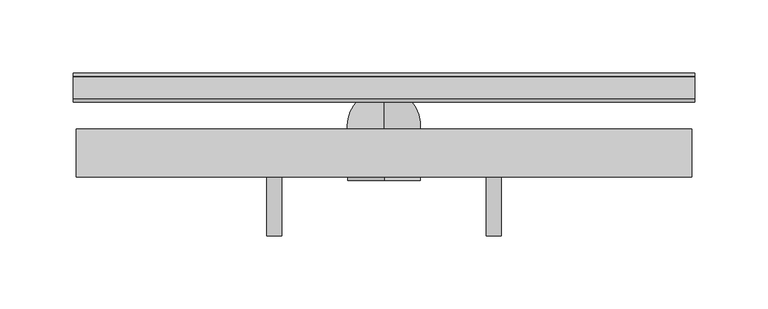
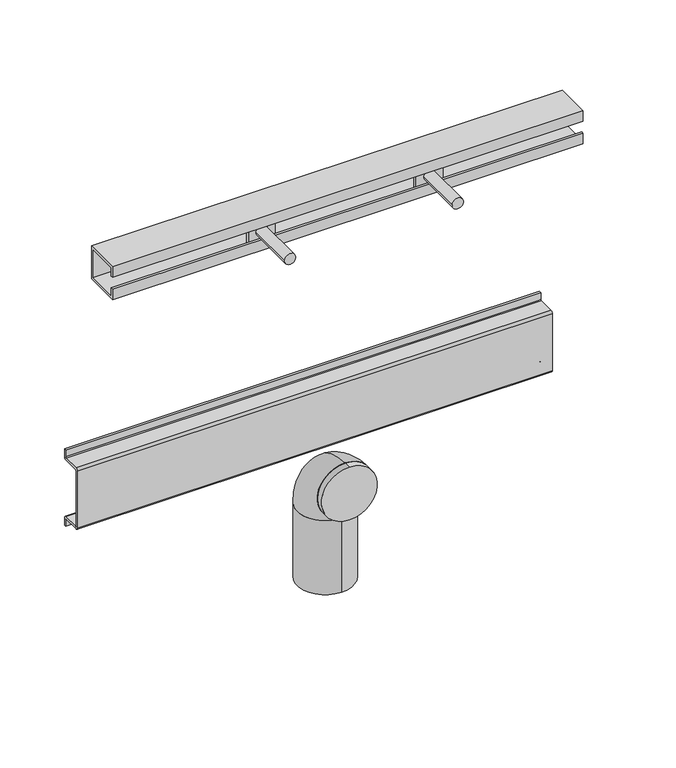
"""IFC4 building model written with IfcOpenShell, lengths in millimetres: flow terminal geometry, NLRS_74_PF_TLB_HU-ASM-WT_Geberit : HU-ASM-WT."""

from ifc_helpers import new_model, si_unit, point, frame, frame_2d, origin, place, context, project, spatial, polyline, circle_curve, ellipse_curve, trimmed, segment, composite_curve, outline, extrude, source, transform, mapped, element, save
from ifc_brep_helpers import plane_surface, cylinder_surface, revolved_surface, advanced_brep


def flow_terminal_61d9df0e(model_context):
    return source(origin(), model_context, "Body", "SolidModel", [
        advanced_brep(
        [(739.5750369, -38.0, 795.0), (749.5750369, -38.0, 795.0), (739.5750369, 12.0, 795.0), (749.5750369, 12.0, 795.0), (756.5814924, 9.0, 807.0061365), (756.5814924, 9.0, 782.9938635), (732.5814924, 9.0, 782.9938635), (732.5814924, 9.0, 807.0061365), (739.5750369, 9.0, 795.0), (749.5750369, 9.0, 795.0), (756.5814924, 6.0, 807.0061365), (732.5814924, 6.0, 807.0061365), (732.5814924, 6.0, 782.9938635), (756.5814924, 6.0, 782.9938635), (749.5750369, 6.0, 795.0), (739.5750369, 6.0, 795.0)],
        [
            (0, 1, circle_curve(frame((744.5750369, -38.0, 795.0), z_axis=(0.0, -1.0, 0.0), x_axis=(1.0, 0.0, 0.0)), 5.0)),
            (1, 0, circle_curve(frame((744.5750369, -38.0, 795.0), z_axis=(0.0, -1.0, 0.0), x_axis=(1.0, 0.0, 0.0)), 5.0)),
            (2, 3, circle_curve(frame((744.5750369, 12.0, 795.0), z_axis=(0.0, 1.0, 0.0), x_axis=(1.0, 0.0, 0.0)), 5.0)),
            (3, 2, circle_curve(frame((744.5750369, 12.0, 795.0), z_axis=(0.0, 1.0, 0.0), x_axis=(1.0, 0.0, 0.0)), 5.0)),
            (4, 5),
            (5, 6),
            (6, 7),
            (7, 4),
            (8, 9, circle_curve(frame((744.5750369, 9.0, 795.0), z_axis=(0.0, -1.0, 0.0), x_axis=(1.0, 0.0, 0.0)), 5.0)),
            (9, 8, circle_curve(frame((744.5750369, 9.0, 795.0), z_axis=(0.0, -1.0, 0.0), x_axis=(1.0, 0.0, 0.0)), 5.0)),
            (10, 11),
            (11, 12),
            (12, 13),
            (13, 10),
            (14, 15, circle_curve(frame((744.5750369, 6.0, 795.0), z_axis=(0.0, 1.0, 0.0), x_axis=(1.0, 0.0, 0.0)), 5.0)),
            (15, 14, circle_curve(frame((744.5750369, 6.0, 795.0), z_axis=(0.0, 1.0, 0.0), x_axis=(1.0, 0.0, 0.0)), 5.0)),
            (7, 11),
            (10, 4),
            (6, 12),
            (5, 13),
            (0, 15),
            (14, 1),
            (3, 9),
            (8, 2),
        ],
        [
            plane_surface(frame((749.5750369, -38.0, 795.0), z_axis=(0.0, -1.0, 0.0), x_axis=(0.0, 0.0, 1.0))),
            plane_surface(frame((749.5750369, 12.0, 795.0), z_axis=(0.0, 1.0, 0.0), x_axis=(0.0, 0.0, -1.0))),
            plane_surface(frame((732.5814924, 9.0, 807.0061365), z_axis=(0.0, 1.0, 0.0), x_axis=(1.0, 0.0, 0.0))),
            plane_surface(frame((732.5814924, 6.0, 807.0061365), z_axis=(0.0, -1.0, 0.0), x_axis=(-1.0, 0.0, 0.0))),
            plane_surface(frame((756.5814924, 6.0, 807.0061365), z_axis=(0.0, 0.0, 1.0), x_axis=(0.0, 1.0, 0.0))),
            plane_surface(frame((732.5814924, 6.0, 807.0061365), z_axis=(-1.0, 0.0, 0.0), x_axis=(0.0, 1.0, 0.0))),
            plane_surface(frame((732.5814924, 6.0, 782.9938635), z_axis=(0.0, 0.0, -1.0), x_axis=(0.0, 1.0, 0.0))),
            plane_surface(frame((756.5814924, 6.0, 782.9938635), z_axis=(1.0, 0.0, 0.0), x_axis=(0.0, 1.0, 0.0))),
            cylinder_surface(frame((744.5750369, 12.0, 795.0), z_axis=(0.0, -1.0, 0.0), x_axis=(1.0, 0.0, 0.0)), 5.0),
        ],
        [
            (0, [[1, 2]]),
            (1, [[3, 4]]),
            (2, [[5, 6, 7, 8], [9, 10]]),
            (3, [[11, 12, 13, 14], [15, 16]]),
            (4, [[-8, 17, -11, 18]]),
            (5, [[-7, 19, -12, -17]]),
            (6, [[-6, 20, -13, -19]]),
            (7, [[-5, -18, -14, -20]]),
            (8, [[-1, 21, -15, 22]]),
            (8, [[-4, 23, -9, 24]]),
            (8, [[-2, -22, -16, -21]]),
            (8, [[-3, -24, -10, -23]]),
        ],
    ),
        advanced_brep(
        [(906.5814924, 9.0, 807.0061365), (906.5814924, 9.0, 782.9938635), (882.5814924, 9.0, 782.9938635), (882.5814924, 9.0, 807.0061365), (889.5814924, 9.0, 795.0), (899.5814924, 9.0, 795.0), (906.5814924, 6.0, 807.0061365), (882.5814924, 6.0, 807.0061365), (882.5814924, 6.0, 782.9938635), (906.5814924, 6.0, 782.9938635), (899.5814924, 6.0, 795.0), (889.5814924, 6.0, 795.0), (889.5814924, -38.0, 795.0), (899.5814924, -38.0, 795.0), (889.5814924, 12.0, 795.0), (899.5814924, 12.0, 795.0)],
        [
            (0, 1),
            (1, 2),
            (2, 3),
            (3, 0),
            (4, 5, circle_curve(frame((894.5814924, 9.0, 795.0), z_axis=(0.0, -1.0, 0.0), x_axis=(1.0, 0.0, 0.0)), 5.0)),
            (5, 4, circle_curve(frame((894.5814924, 9.0, 795.0), z_axis=(0.0, -1.0, 0.0), x_axis=(1.0, 0.0, 0.0)), 5.0)),
            (6, 7),
            (7, 8),
            (8, 9),
            (9, 6),
            (10, 11, circle_curve(frame((894.5814924, 6.0, 795.0), z_axis=(0.0, 1.0, 0.0), x_axis=(1.0, 0.0, 0.0)), 5.0)),
            (11, 10, circle_curve(frame((894.5814924, 6.0, 795.0), z_axis=(0.0, 1.0, 0.0), x_axis=(1.0, 0.0, 0.0)), 5.0)),
            (3, 7),
            (6, 0),
            (2, 8),
            (1, 9),
            (12, 13, circle_curve(frame((894.5814924, -38.0, 795.0), z_axis=(0.0, -1.0, 0.0), x_axis=(1.0, 0.0, 0.0)), 5.0)),
            (13, 12, circle_curve(frame((894.5814924, -38.0, 795.0), z_axis=(0.0, -1.0, 0.0), x_axis=(1.0, 0.0, 0.0)), 5.0)),
            (14, 15, circle_curve(frame((894.5814924, 12.0, 795.0), z_axis=(0.0, 1.0, 0.0), x_axis=(1.0, 0.0, 0.0)), 5.0)),
            (15, 14, circle_curve(frame((894.5814924, 12.0, 795.0), z_axis=(0.0, 1.0, 0.0), x_axis=(1.0, 0.0, 0.0)), 5.0)),
            (12, 11),
            (10, 13),
            (15, 5),
            (4, 14),
        ],
        [
            plane_surface(frame((732.5814924, 9.0, 807.0061365), z_axis=(0.0, 1.0, 0.0), x_axis=(1.0, 0.0, 0.0))),
            plane_surface(frame((732.5814924, 6.0, 807.0061365), z_axis=(0.0, -1.0, 0.0), x_axis=(-1.0, 0.0, 0.0))),
            plane_surface(frame((906.5814924, 6.0, 807.0061365), z_axis=(0.0, 0.0, 1.0), x_axis=(0.0, 1.0, 0.0))),
            plane_surface(frame((882.5814924, 6.0, 807.0061365), z_axis=(-1.0, 0.0, 0.0), x_axis=(0.0, 1.0, 0.0))),
            plane_surface(frame((882.5814924, 6.0, 782.9938635), z_axis=(0.0, 0.0, -1.0), x_axis=(0.0, 1.0, 0.0))),
            plane_surface(frame((906.5814924, 6.0, 782.9938635), z_axis=(1.0, 0.0, 0.0), x_axis=(0.0, 1.0, 0.0))),
            plane_surface(frame((899.5814924, -38.0, 795.0), z_axis=(0.0, -1.0, 0.0), x_axis=(0.0, 0.0, 1.0))),
            plane_surface(frame((899.5814924, 12.0, 795.0), z_axis=(0.0, 1.0, 0.0), x_axis=(0.0, 0.0, -1.0))),
            cylinder_surface(frame((894.5814924, 12.0, 795.0), z_axis=(0.0, -1.0, 0.0), x_axis=(1.0, 0.0, 0.0)), 5.0),
        ],
        [
            (0, [[1, 2, 3, 4], [5, 6]]),
            (1, [[7, 8, 9, 10], [11, 12]]),
            (2, [[-4, 13, -7, 14]]),
            (3, [[-3, 15, -8, -13]]),
            (4, [[-2, 16, -9, -15]]),
            (5, [[-1, -14, -10, -16]]),
            (6, [[17, 18]]),
            (7, [[19, 20]]),
            (8, [[-17, 21, -11, 22]]),
            (8, [[-20, 23, -5, 24]]),
            (8, [[-18, -22, -12, -21]]),
            (8, [[-19, -24, -6, -23]]),
        ],
    ),
        advanced_brep(
        [(819.5814924, 62.5, 423.0), (819.5814924, 12.5, 423.0), (819.5814924, 12.5, 493.0), (819.5814924, 62.5, 493.0), (819.5814924, 6.5, 499.0), (819.5814924, 6.5, 549.0)],
        [
            (0, 1, circle_curve(frame((819.5814924, 37.5, 423.0), z_axis=(0.0, 0.0, -1.0), x_axis=(0.0, -1.0, 0.0)), 25.0)),
            (1, 0, circle_curve(frame((819.5814924, 37.5, 423.0), z_axis=(0.0, 0.0, -1.0), x_axis=(0.0, -1.0, 0.0)), 25.0)),
            (1, 2),
            (2, 3, circle_curve(frame((819.5814924, 37.5, 493.0), z_axis=(0.0, 0.0, -1.0), x_axis=(0.0, -1.0, 0.0)), 25.0)),
            (3, 0),
            (3, 2, circle_curve(frame((819.5814924, 37.5, 493.0), z_axis=(0.0, 0.0, -1.0), x_axis=(0.0, -1.0, 0.0)), 25.0)),
            (4, 5, circle_curve(frame((819.5814924, 6.5, 524.0), z_axis=(0.0, -1.0, 0.0), x_axis=(0.0, 0.0, 1.0)), 25.0)),
            (5, 4, circle_curve(frame((819.5814924, 6.5, 524.0), z_axis=(0.0, -1.0, 0.0), x_axis=(0.0, 0.0, 1.0)), 25.0)),
            (4, 2, circle_curve(frame((819.5814924, 6.5, 493.0), z_axis=(-1.0, 0.0, 0.0), x_axis=(0.0, 0.0, -1.0)), 6.0)),
            (3, 5, circle_curve(frame((819.5814924, 6.5, 493.0), z_axis=(1.0, 0.0, 0.0), x_axis=(0.0, 0.0, -1.0)), 56.0)),
        ],
        [
            plane_surface(frame((819.5814924, 0.0, 423.0), z_axis=(0.0, 0.0, -1.0), x_axis=(0.0, -1.0, 0.0))),
            cylinder_surface(frame((819.5814924, 37.5, 493.0), z_axis=(0.0, 0.0, 1.0), x_axis=(0.0, -1.0, 0.0)), 25.0),
            plane_surface(frame((819.5814924, 6.5, 524.0), z_axis=(0.0, -1.0, 0.0), x_axis=(1.0, 0.0, 0.0))),
            revolved_surface(trimmed(ellipse_curve(frame((819.5814924, 6.5, 462.0), z_axis=(0.0, -1.0, 0.0), x_axis=(0.0, 0.0, -1.0)), 25.0, 25.0), [point((819.5814924, 6.5, 437.0))], [point((819.5814924, 6.5, 487.0))], True, "CARTESIAN"), (819.5814924, 6.5, 493.0), (1.0, 0.0, 0.0)),
            revolved_surface(trimmed(ellipse_curve(frame((819.5814924, 6.5, 462.0), z_axis=(0.0, -1.0, 0.0), x_axis=(0.0, 0.0, -1.0)), 25.0, 25.0), [point((819.5814924, 6.5, 487.0))], [point((819.5814924, 6.5, 437.0))], True, "CARTESIAN"), (819.5814924, 6.5, 493.0), (1.0, 0.0, 0.0)),
        ],
        [
            (0, [[1, 2]]),
            (1, [[-2, 3, 4, 5]]),
            (1, [[-1, -5, 6, -3]]),
            (2, [[7, 8]]),
            (3, [[-7, 9, -6, 10]]),
            (4, [[-8, -10, -4, -9]]),
        ],
    ),
        extrude(outline(composite_curve([segment(trimmed(circle_curve(frame_2d((524.0009405, 819.5824329)), 24.9990595), [point((499.0018809, 819.5824329))], [point((549.0, 819.5824329))], False, "CARTESIAN"), True, "CONTINUOUS"), segment(trimmed(circle_curve(frame_2d((524.0009405, 819.5824329)), 24.9990595), [point((549.0, 819.5824329))], [point((499.0018809, 819.5824329))], False, "CARTESIAN"), True, "CONTINUOUS")], self_intersect=False)), frame((0.0, 0.0, 0.0), z_axis=(0.0, 1.0, 0.0), x_axis=(0.0, 0.0, 1.0)), (0.0, 0.0, 1.0), 6.5),
        extrude(outline(composite_curve([segment(trimmed(circle_curve(frame_2d((71.3732031, 589.0160249)), 2.1267969), [point((73.5, 589.0160249))], [point((71.3732031, 586.889228))], False, "CARTESIAN"), True, "CONTINUOUS"), segment(polyline([(71.3732031, 586.889228), (56.3732031, 586.889228)]), True, "CONTINUOUS"), segment(trimmed(circle_curve(frame_2d((56.3732031, 586.2053441)), 0.683884), [point((56.3732031, 586.889228))], [point((55.6893191, 586.2053441))], True, "CARTESIAN"), True, "CONTINUOUS"), segment(polyline([(55.6893191, 586.2053441), (55.6893191, 533.7713196)]), True, "CONTINUOUS"), segment(trimmed(circle_curve(frame_2d((56.3874999, 533.7713196)), 0.6981808), [point((55.6893191, 533.7713196))], [point((56.3874999, 533.0731388))], True, "CARTESIAN"), True, "CONTINUOUS"), segment(polyline([(56.3874999, 533.0731388), (71.3874999, 533.0731388)]), True, "CONTINUOUS"), segment(trimmed(circle_curve(frame_2d((71.3874999, 530.9606387)), 2.1125001), [point((71.3874999, 533.0731388))], [point((73.5, 530.9606387))], False, "CARTESIAN"), True, "CONTINUOUS"), segment(polyline([(73.5, 530.9606387), (73.5, 524.0), (71.5, 524.0), (71.5, 530.3374716)]), True, "CONTINUOUS"), segment(trimmed(circle_curve(frame_2d((70.7643328, 530.3374716)), 0.7356672), [point((71.5, 530.3374716))], [point((70.7643328, 531.0731388))], True, "CARTESIAN"), True, "CONTINUOUS"), segment(polyline([(70.7643328, 531.0731388), (55.7863096, 531.0731388)]), True, "CONTINUOUS"), segment(trimmed(circle_curve(frame_2d((55.7863096, 533.1701292)), 2.0969904), [point((55.7863096, 531.0731388))], [point((53.6893191, 533.1701292))], False, "CARTESIAN"), True, "CONTINUOUS"), segment(polyline([(53.6893191, 533.1701292), (53.6893191, 586.7922376)]), True, "CONTINUOUS"), segment(trimmed(circle_curve(frame_2d((55.7863096, 586.7922376)), 2.0969904), [point((53.6893191, 586.7922376))], [point((55.7863096, 588.889228))], False, "CARTESIAN"), True, "CONTINUOUS"), segment(polyline([(55.7863096, 588.889228), (70.7904457, 588.889228)]), True, "CONTINUOUS"), segment(trimmed(circle_curve(frame_2d((70.7904457, 589.5987824)), 0.7095543), [point((70.7904457, 588.889228))], [point((71.5, 589.5987824))], True, "CARTESIAN"), True, "CONTINUOUS"), segment(polyline([(71.5, 589.5987824), (71.5, 596.0), (73.5, 596.0), (73.5, 589.0160249)]), True, "CONTINUOUS")], self_intersect=False)), frame((607.0814924, 0.0, 0.0), z_axis=(1.0, 0.0, 0.0), x_axis=(0.0, 1.0, 0.0)), (0.0, 0.0, 1.0), 425.0),
        extrude(outline(polyline([(35.0, 810.5037298), (35.0, 779.4725601), (2.5, 779.4725601), (2.5, 789.4725601), (4.4828185, 789.4725601), (4.4828185, 781.5435697), (33.0437197, 781.5435697), (33.0437197, 808.5504833), (4.4828185, 808.5504833), (4.4828185, 800.5037298), (2.5, 800.5037298), (2.5, 810.5037298), (35.0, 810.5037298)])), frame((609.0917509, 0.0, 0.0), z_axis=(1.0, 0.0, 0.0), x_axis=(0.0, 1.0, 0.0)), (0.0, 0.0, 1.0), 420.9897416),
    ])


if __name__ == "__main__":
    model = new_model("IFC4")
    model_context = context("Model", 3, world=origin())
    ifc_project = project(units=[si_unit("LENGTHUNIT", "METRE", prefix="MILLI")], contexts=[model_context])
    site = spatial("IfcSite", under=ifc_project)
    building = spatial("IfcBuilding", under=site)
    placement = place(None, origin())
    flow_terminal_shape = flow_terminal_61d9df0e(model_context)
    element("IfcFlowTerminal", 1, ObjectType="NLRS_74_PF_TLB_HU-ASM-WT_Geberit : HU-ASM-WT", at=placement, inside=building, context=model_context, shape_type="MappedRepresentation", body=[
        mapped(flow_terminal_shape, transform((0.0, 0.0, 0.0), x_axis=(1.0, 0.0, 0.0), y_axis=(0.0, 1.0, 0.0), z_axis=(0.0, 0.0, 1.0))),
    ])
    save(model, "model.ifc")
